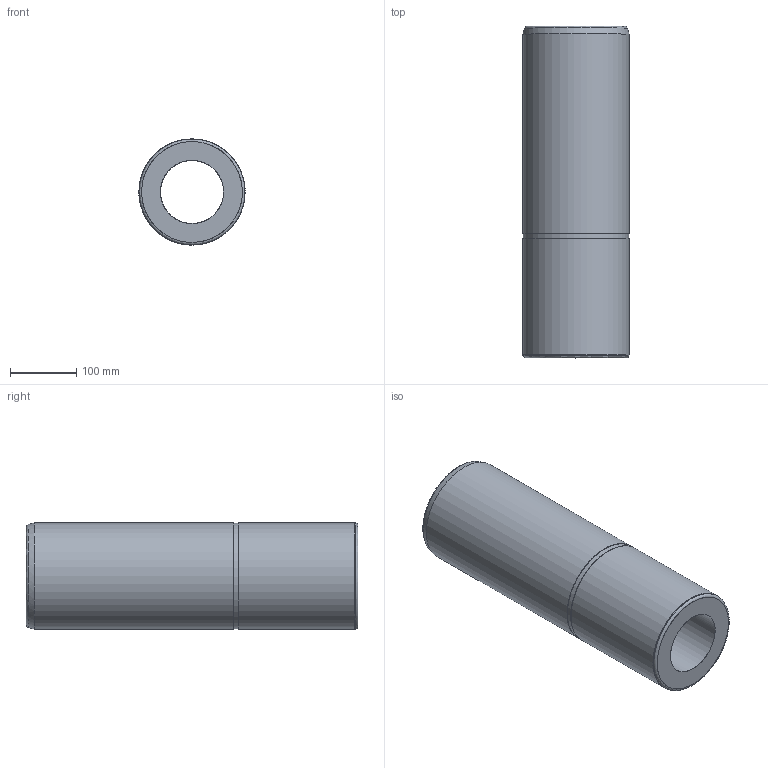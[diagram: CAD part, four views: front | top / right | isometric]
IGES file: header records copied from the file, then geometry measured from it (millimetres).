
Start section: Missler Software BP 521, 31674 Labege Cedex, France Tel   : +33 (0)5 61 00 03 00 Fax   : +33 (0)5 61 00 03 03 Email : sup.topsolid@topsolid.com
Global section: file name: D:\Cuma\26 04 2010\D15g\D15_160500.igs; native system: TopSolid v605250 Missler Software; preprocessor: IGES preprocessor v100000; date: 030225.172851; units: millimetre
Bounding box: 160 x 500 x 160 mm (x, y, z)
Surface area: 427122.2 mm2 (no closed solid volume)
Topology: 0 solids, 0 shells, 18 faces, 346 edges, 336 vertices
Faces by surface type: bspline 18
